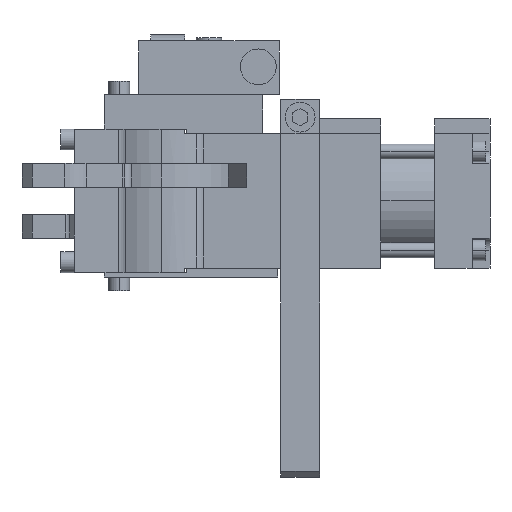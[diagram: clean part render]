
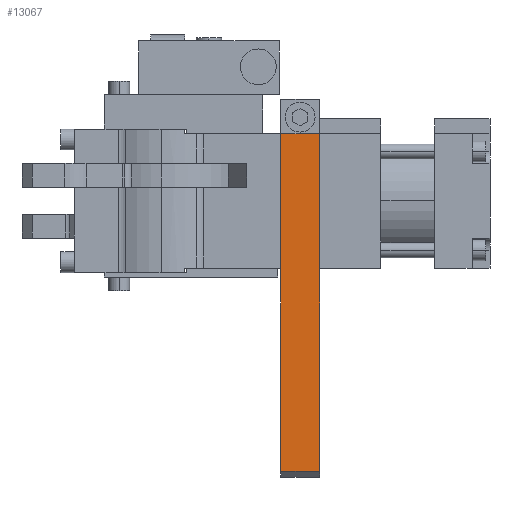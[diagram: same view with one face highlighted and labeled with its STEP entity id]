
A CAD part, left-side view. The second image highlights one B-rep face of the part: STEP entity #13067.
In plain terms, the highlighted planar face has unit normal (-1, 0, 0) as drawn and (0, 1, 0) by its records, which use the part's own axes.
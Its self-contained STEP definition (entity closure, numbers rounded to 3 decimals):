
#377 = VERTEX_POINT ( 'NONE', #12665 ) ;
#573 = ORIENTED_EDGE ( 'NONE', *, *, #4326, .F. ) ;
#773 = CARTESIAN_POINT ( 'NONE',  ( -22.5, 22.5, 13. ) ) ;
#1105 = AXIS2_PLACEMENT_3D ( 'NONE', #10082, #3309, #11226 ) ;
#1830 = VECTOR ( 'NONE', #3064, 1000. ) ;
#2100 = EDGE_CURVE ( 'NONE', #9757, #377, #4835, .T. ) ;
#3064 = DIRECTION ( 'NONE',  ( 0., 0., -1. ) ) ;
#3212 = FACE_OUTER_BOUND ( 'NONE', #13798, .T. ) ;
#3240 = VECTOR ( 'NONE', #12977, 1000. ) ;
#3309 = DIRECTION ( 'NONE',  ( 0., -1., 0. ) ) ;
#3588 = LINE ( 'NONE', #14080, #3240 ) ;
#4154 = ORIENTED_EDGE ( 'NONE', *, *, #7459, .T. ) ;
#4326 = EDGE_CURVE ( 'NONE', #11586, #9757, #11484, .T. ) ;
#4400 = PLANE ( 'NONE',  #1105 ) ;
#4835 = LINE ( 'NONE', #773, #1830 ) ;
#6461 = CARTESIAN_POINT ( 'NONE',  ( -22.5, 22.5, 0. ) ) ;
#6805 = ORIENTED_EDGE ( 'NONE', *, *, #12301, .T. ) ;
#7459 = EDGE_CURVE ( 'NONE', #7617, #377, #13629, .T. ) ;
#7617 = VERTEX_POINT ( 'NONE', #9708 ) ;
#9465 = CARTESIAN_POINT ( 'NONE',  ( 90.5, 22.5, 13. ) ) ;
#9708 = CARTESIAN_POINT ( 'NONE',  ( 90.5, 22.5, 0. ) ) ;
#9757 = VERTEX_POINT ( 'NONE', #10298 ) ;
#9956 = VECTOR ( 'NONE', #13277, 1000. ) ;
#10082 = CARTESIAN_POINT ( 'NONE',  ( -22.5, 22.5, 13. ) ) ;
#10144 = CARTESIAN_POINT ( 'NONE',  ( -22.5, 22.5, 13. ) ) ;
#10298 = CARTESIAN_POINT ( 'NONE',  ( -22.5, 22.5, 13. ) ) ;
#11137 = VECTOR ( 'NONE', #11291, 1000. ) ;
#11226 = DIRECTION ( 'NONE',  ( 1., 0., 0. ) ) ;
#11291 = DIRECTION ( 'NONE',  ( -1., 0., 0. ) ) ;
#11484 = LINE ( 'NONE', #10144, #11137 ) ;
#11586 = VERTEX_POINT ( 'NONE', #9465 ) ;
#12301 = EDGE_CURVE ( 'NONE', #11586, #7617, #3588, .T. ) ;
#12665 = CARTESIAN_POINT ( 'NONE',  ( -22.5, 22.5, 0. ) ) ;
#12977 = DIRECTION ( 'NONE',  ( 0., 0., -1. ) ) ;
#13067 = ADVANCED_FACE ( 'NONE', ( #3212 ), #4400, .F. ) ;
#13277 = DIRECTION ( 'NONE',  ( -1., 0., 0. ) ) ;
#13629 = LINE ( 'NONE', #6461, #9956 ) ;
#13798 = EDGE_LOOP ( 'NONE', ( #573, #6805, #4154, #13845 ) ) ;
#13845 = ORIENTED_EDGE ( 'NONE', *, *, #2100, .F. ) ;
#14080 = CARTESIAN_POINT ( 'NONE',  ( 90.5, 22.5, 13. ) ) ;
